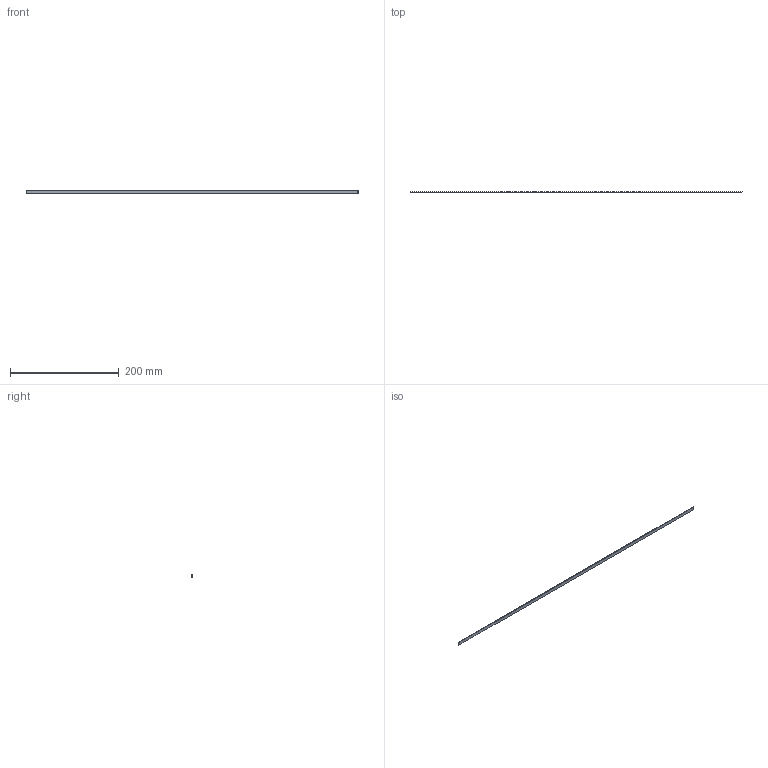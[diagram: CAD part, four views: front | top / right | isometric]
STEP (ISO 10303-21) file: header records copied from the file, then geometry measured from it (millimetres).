
FILE_DESCRIPTION(/* description */ ('STEP AP242 Edition 2','CAx-IF Rec.Pracs.---Representation and Presentation of Product Manufacturing Information (PMI)---4.0---2014-10-13','CAx-IF Rec.Pracs.---3D Tessellated Geometry---0.4---2014-09-14','2;1','CAx-IF Rec.Pracs.---User Defined Attributes---1.5---2016-08-15'),/* implementation_level */ '2;1');
FILE_NAME(/* name */ 'Final Build - fake belt (1)',/* time_stamp */ '2026-08-31T23:26:09Z',/* author */ (''),/* organization */ (''),/* preprocessor_version */ 'ST-DEVELOPER v20',/* originating_system */ 'ONSHAPE BY PTC INC, 1.220',/* authorisation */ ' ');
FILE_SCHEMA (('AP242_MANAGED_MODEL_BASED_3D_ENGINEERING_MIM_LF { 1 0 10303 442 3 1 4 }'));
Length unit declared in the file: metre
Products named in the file (1): fake belt
Bounding box: 610 x 1.39 x 6 mm (x, y, z)
Volume: 5087.4 mm3; surface area: 9032.5 mm2
Topology: 1 solids, 1 shells, 6 faces, 12 edges, 8 vertices
Faces by surface type: plane 6
Entity records: 178 total; most frequent: CARTESIAN_POINT 27, DIRECTION 26, ORIENTED_EDGE 24, EDGE_CURVE 12, LINE 12, VECTOR 12, VERTEX_POINT 8, AXIS2_PLACEMENT_3D 7
